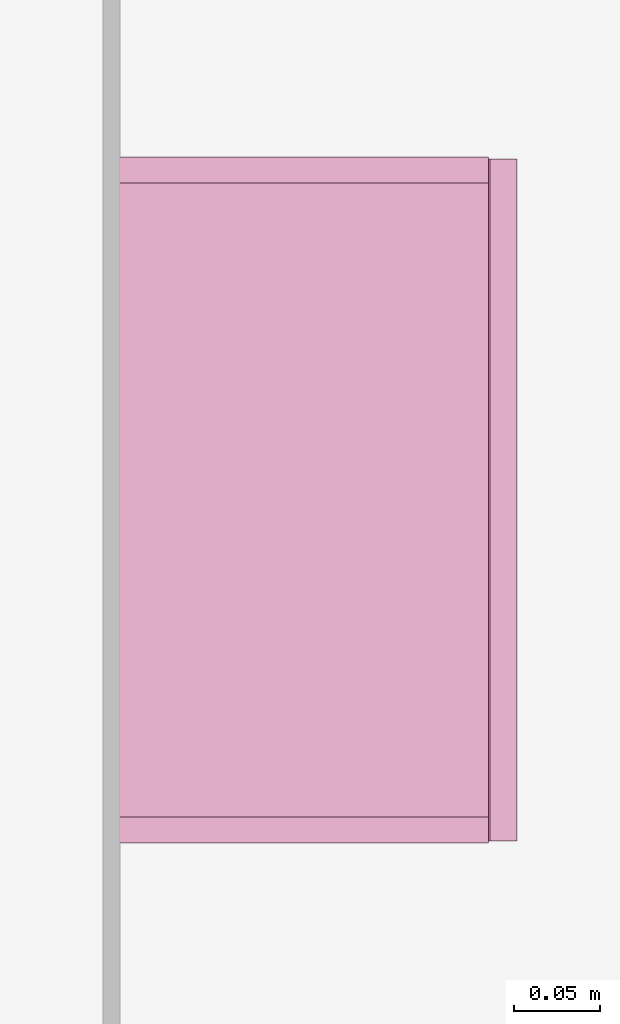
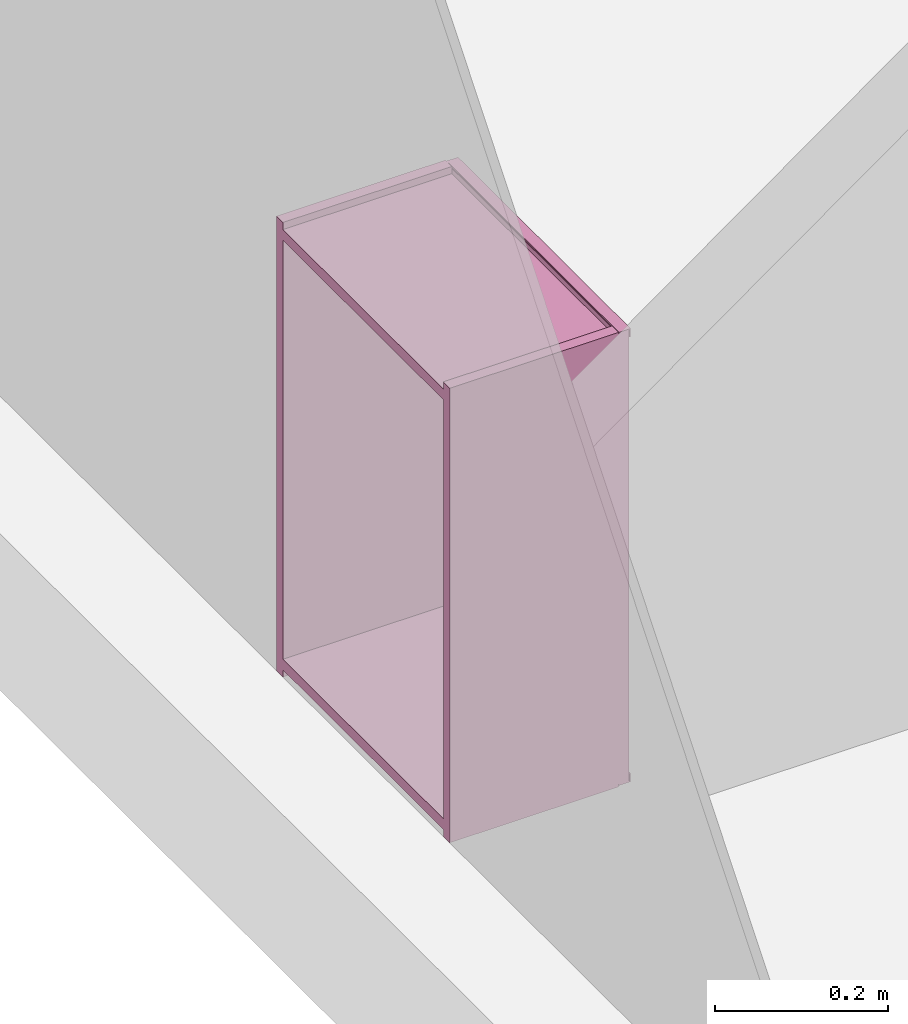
# One storey, part 11 of 11: 1 furnishing.
"""IFC2X3 building model written with IfcOpenShell, lengths in metres."""

from ifc_helpers import new_model, entity, si_unit, converted_unit, derived_unit, direction, frame, origin, place, context, subcontext, project, spatial, faceted_brep, source, transform, mapped, material, material_list, type_object, type_shapes, element, save


model = new_model("IFC2X3")

# Units and contexts
model_context = context("Model", 3, precision=1e-05, world=origin(), true_north=direction((6.12303176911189e-17, 1.0)))
body_context = subcontext(model_context, "Body", "Model", "MODEL_VIEW")
ifc_project = project(units=[si_unit("LENGTHUNIT", "METRE"), si_unit("AREAUNIT", "SQUARE_METRE"), si_unit("VOLUMEUNIT", "CUBIC_METRE"), converted_unit("PLANEANGLEUNIT", "DEGREE", entity("IfcRatioMeasure", 0.0174532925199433), si_unit("PLANEANGLEUNIT", "RADIAN"), dimensions=[0, 0, 0, 0, 0, 0, 0]), si_unit("MASSUNIT", "GRAM", prefix="KILO"), derived_unit("MASSDENSITYUNIT", [(si_unit("MASSUNIT", "GRAM", prefix="KILO"), 1), (si_unit("LENGTHUNIT", "METRE"), -3)]), derived_unit("MOMENTOFINERTIAUNIT", [(si_unit("LENGTHUNIT", "METRE"), 4)]), si_unit("TIMEUNIT", "SECOND"), si_unit("FREQUENCYUNIT", "HERTZ"), si_unit("THERMODYNAMICTEMPERATUREUNIT", "DEGREE_CELSIUS"), derived_unit("THERMALTRANSMITTANCEUNIT", [(si_unit("MASSUNIT", "GRAM", prefix="KILO"), 1), (si_unit("THERMODYNAMICTEMPERATUREUNIT", "KELVIN"), -1), (si_unit("TIMEUNIT", "SECOND"), -3)]), derived_unit("VOLUMETRICFLOWRATEUNIT", [(si_unit("LENGTHUNIT", "METRE"), 3), (si_unit("TIMEUNIT", "SECOND"), -1)]), si_unit("ELECTRICCURRENTUNIT", "AMPERE"), si_unit("ELECTRICVOLTAGEUNIT", "VOLT"), si_unit("POWERUNIT", "WATT"), si_unit("FORCEUNIT", "NEWTON", prefix="KILO"), si_unit("ILLUMINANCEUNIT", "LUX"), si_unit("LUMINOUSFLUXUNIT", "LUMEN"), si_unit("LUMINOUSINTENSITYUNIT", "CANDELA"), derived_unit("USERDEFINED", [(si_unit("MASSUNIT", "GRAM", prefix="KILO"), -1), (si_unit("LENGTHUNIT", "METRE"), -2), (si_unit("TIMEUNIT", "SECOND"), 3), (si_unit("LUMINOUSFLUXUNIT", "LUMEN"), 1)]), derived_unit("LINEARVELOCITYUNIT", [(si_unit("LENGTHUNIT", "METRE"), 1), (si_unit("TIMEUNIT", "SECOND"), -1)]), si_unit("PRESSUREUNIT", "PASCAL"), derived_unit("USERDEFINED", [(si_unit("LENGTHUNIT", "METRE"), -2), (si_unit("MASSUNIT", "GRAM", prefix="KILO"), 1), (si_unit("TIMEUNIT", "SECOND"), -2)]), derived_unit("LINEARFORCEUNIT", [(si_unit("MASSUNIT", "GRAM", prefix="KILO"), 1), (si_unit("LENGTHUNIT", "METRE"), 1), (si_unit("TIMEUNIT", "SECOND"), -2), (si_unit("LENGTHUNIT", "METRE"), -1)]), derived_unit("PLANARFORCEUNIT", [(si_unit("MASSUNIT", "GRAM", prefix="KILO"), 1), (si_unit("LENGTHUNIT", "METRE"), 1), (si_unit("TIMEUNIT", "SECOND"), -2), (si_unit("LENGTHUNIT", "METRE"), -2)])], contexts=[model_context])

# Site, building, storey
site_placement = place(None, origin())
site = spatial("IfcSite", under=ifc_project, at=site_placement, Name="Surface", CompositionType="ELEMENT")
building_placement = place(site_placement, origin())
building = spatial("IfcBuilding", under=site, at=building_placement, CompositionType="ELEMENT")
storey_placement = place(building_placement, frame((0.0, 0.0, 2.72)))
storey = spatial("IfcBuildingStorey", under=building, at=storey_placement, Name="02 ETG", CompositionType="ELEMENT", Elevation=2.72)

# Furnishing
ifc_material_1 = material(Name="Métal - Chrome")
ifc_material_2 = material(Name="Aggloméré - Blanc")
ifc_material_list_1 = material_list([ifc_material_1, ifc_material_2])
ifc_material_list_2 = material_list([ifc_material_2, ifc_material_1])
furniture_type = type_object("IfcFurnitureType", Name="Armoire de salle de bain - 1 porte miroir:40 x 24 x 64 cm - Blanc", material=ifc_material_list_2)
shared_shape = source(origin(), body_context, "Body", "Brep", [
    faceted_brep([(0.00100000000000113, 0.24150000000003, 0.00100000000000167), (0.00100000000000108, 0.22600000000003, 0.00100000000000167), (0.00100000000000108, 0.22600000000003, 0.0025000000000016), (0.00100000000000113, 0.239218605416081, 0.0025000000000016), (0.00100000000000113, 0.24000000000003, 0.0025000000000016), (0.00100000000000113, 0.24000000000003, 0.0125000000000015), (0.00100000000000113, 0.24150000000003, 0.0125000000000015), (0.399000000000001, 0.241500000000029, 0.00100000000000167), (0.399000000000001, 0.241500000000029, 0.0125000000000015), (0.399000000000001, 0.240000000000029, 0.0125000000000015), (0.399000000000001, 0.240000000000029, 0.0025000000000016), (0.399000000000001, 0.23921860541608, 0.0025000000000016), (0.399000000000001, 0.226000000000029, 0.0025000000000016), (0.399000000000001, 0.226000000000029, 0.00100000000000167), (0.398218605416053, 0.240000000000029, 0.0125000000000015), (0.00178139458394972, 0.24000000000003, 0.0125000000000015)], [[[0, 1, 2, 3, 4, 5, 6]], [[7, 8, 9, 10, 11, 12, 13]], [[1, 0, 7, 13]], [[2, 1, 13, 12]], [[2, 12, 11, 10, 4, 3]], [[5, 4, 10, 9, 14, 15]], [[6, 5, 15, 14, 9, 8]], [[0, 6, 8, 7]]]),
    faceted_brep([(0.00100000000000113, 0.24150000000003, 0.627500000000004), (0.00100000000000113, 0.24150000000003, 0.639000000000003), (0.399000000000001, 0.241500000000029, 0.639000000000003), (0.399000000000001, 0.241500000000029, 0.627500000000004), (0.00100000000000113, 0.24000000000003, 0.627500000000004), (0.399000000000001, 0.240000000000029, 0.627500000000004), (0.398218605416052, 0.240000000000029, 0.627500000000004), (0.00178139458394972, 0.24000000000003, 0.627500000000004), (0.00100000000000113, 0.24000000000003, 0.637500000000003), (0.399000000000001, 0.240000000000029, 0.637500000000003), (0.399000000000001, 0.23921860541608, 0.637500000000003), (0.399000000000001, 0.226000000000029, 0.637500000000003), (0.00100000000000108, 0.22600000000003, 0.637500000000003), (0.00100000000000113, 0.239218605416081, 0.637500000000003), (0.00100000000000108, 0.22600000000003, 0.639000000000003), (0.399000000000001, 0.226000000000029, 0.639000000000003)], [[[0, 1, 2, 3]], [[4, 0, 3, 5, 6, 7]], [[8, 4, 7, 6, 5, 9]], [[8, 9, 10, 11, 12, 13]], [[14, 12, 11, 15]], [[1, 14, 15, 2]], [[2, 15, 11, 10, 9, 5, 3]], [[1, 0, 4, 8, 13, 12, 14]]]),
    faceted_brep([(0.398218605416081, 0.24, 0.00328139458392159), (0.00178139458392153, 0.240000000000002, 0.00328139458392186), (0.00178139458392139, 0.240000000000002, 0.636718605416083), (0.398218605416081, 0.24, 0.636718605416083), (0.00100000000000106, 0.225000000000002, 0.637500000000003), (0.00100000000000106, 0.225000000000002, 0.0025000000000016), (0.399000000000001, 0.225000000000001, 0.0025000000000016), (0.399000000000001, 0.225000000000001, 0.637500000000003), (0.399000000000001, 0.23921860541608, 0.637500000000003), (0.00100000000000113, 0.239218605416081, 0.637500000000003), (0.399000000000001, 0.23921860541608, 0.0025000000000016), (0.00100000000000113, 0.239218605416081, 0.0025000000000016)], [[[0, 1, 2, 3]], [[4, 5, 6, 7]], [[4, 7, 8, 9]], [[7, 6, 10, 8]], [[6, 5, 11, 10]], [[5, 4, 9, 11]], [[11, 1, 0, 10]], [[1, 11, 9, 2]], [[2, 9, 8, 3]], [[10, 0, 3, 8]]]),
    faceted_brep([(0.400000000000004, 0.225000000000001, 0.640000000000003), (0.400000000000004, 0.225000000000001, 0.0), (0.385000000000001, 0.225000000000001, 0.0), (0.385000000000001, 0.225000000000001, 0.0100000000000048), (0.0150000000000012, 0.225000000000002, 0.0100000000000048), (0.0150000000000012, 0.225000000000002, 0.0), (0.0, 0.225000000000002, 0.0), (0.0, 0.225000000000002, 0.640000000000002), (0.0150000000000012, 0.225000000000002, 0.640000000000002), (0.0150000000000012, 0.225000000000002, 0.630000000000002), (0.385000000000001, 0.225000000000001, 0.630000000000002), (0.385000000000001, 0.225000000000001, 0.640000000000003), (0.0150000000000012, 0.225000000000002, 0.615000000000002), (0.0150000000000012, 0.225000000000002, 0.0250000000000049), (0.385000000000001, 0.225000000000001, 0.0250000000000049), (0.385000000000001, 0.225000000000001, 0.615000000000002), (0.400000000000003, 0.0, 0.640000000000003), (0.385, 0.0, 0.640000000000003), (0.385, 0.0, 0.630000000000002), (0.0150000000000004, 0.0, 0.630000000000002), (0.0150000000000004, 0.0, 0.640000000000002), (0.0, 0.0, 0.640000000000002), (0.0, 0.0, 0.0), (0.0150000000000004, 0.0, 0.0), (0.0150000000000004, 0.0, 0.0100000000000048), (0.385, 0.0, 0.0100000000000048), (0.385, 0.0, 0.0), (0.400000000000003, 0.0, 0.0), (0.0150000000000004, 0.0, 0.615000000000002), (0.385, 0.0, 0.615000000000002), (0.385, 0.0, 0.0250000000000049), (0.0150000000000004, 0.0, 0.0250000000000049)], [[[0, 1, 2, 3, 4, 5, 6, 7, 8, 9, 10, 11], [12, 13, 14, 15]], [[16, 17, 18, 19, 20, 21, 22, 23, 24, 25, 26, 27], [28, 29, 30, 31]], [[17, 16, 0, 11]], [[18, 17, 11, 10]], [[19, 18, 10, 9]], [[20, 19, 9, 8]], [[21, 20, 8, 7]], [[22, 21, 7, 6]], [[23, 22, 6, 5]], [[24, 23, 5, 4]], [[25, 24, 4, 3]], [[26, 25, 3, 2]], [[27, 26, 2, 1]], [[16, 27, 1, 0]], [[29, 28, 12, 15]], [[30, 29, 15, 14]], [[31, 30, 14, 13]], [[28, 31, 13, 12]]]),
])
type_shapes(furniture_type, [shared_shape])
furnishing_placement = place(storey_placement, frame((5.73656158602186, -1.96221095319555, 0.0), z_axis=(0.0, 0.0, 1.0), x_axis=(0.0, -1.0, 0.0)))
element("IfcFurnishingElement", 1, at=furnishing_placement, inside=storey, type_object=furniture_type, material=ifc_material_list_1, Name="Armoire de salle de bain - 1 porte miroir:40 x 24 x 64 cm - Blanc", ObjectType="Armoire de salle de bain - 1 porte miroir:40 x 24 x 64 cm - Blanc", context=body_context, shape_type="MappedRepresentation", body=[
    mapped(shared_shape, transform((0.0, 0.0, 0.0), scale=1.0)),
])

save(model, "model.ifc")
